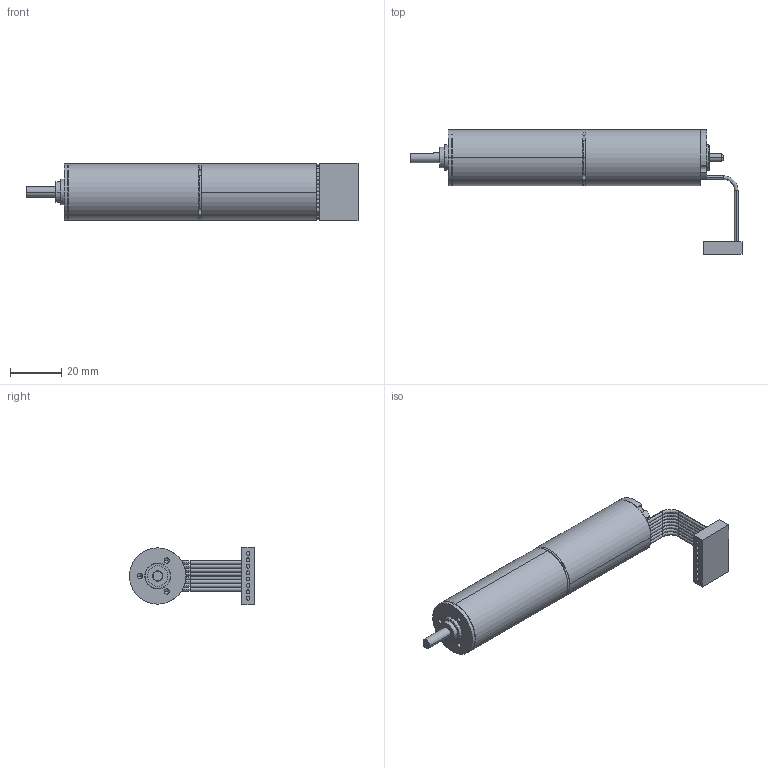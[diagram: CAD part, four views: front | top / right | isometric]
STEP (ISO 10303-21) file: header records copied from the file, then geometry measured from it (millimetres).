
FILE_DESCRIPTION (( 'STEP AP214' ), '1' );
FILE_NAME ('ECMax22L_+_GP022C 5etages.STEP', '2015-08-04T08:51:43', ( '' ), ( '' ), 'SwSTEP 2.0', 'SolidWorks 2014', '' );
FILE_SCHEMA (( 'AUTOMOTIVE_DESIGN' ));
Length unit declared in the file: millimetre
Products named in the file (3): ECMax22L; ECMax22L_+_GP022C 5etages; GP022C_Etage 5
Assembly tree (2 placements, depth 2):
  ECMax22L_+_GP022C 5etages
    ECMax22L
    GP022C_Etage 5
Bounding box: 129.7 x 48.8 x 22.4 mm (x, y, z)
Volume: 37981.8 mm3; surface area: 12147.2 mm2
Topology: 2 solids, 2 shells, 205 faces, 513 edges, 322 vertices
Faces by surface type: cylinder 110, cone 46, plane 33, bspline 16
Entity records: 7391 total; most frequent: CARTESIAN_POINT 1517, DIRECTION 1162, ORIENTED_EDGE 986, AXIS2_PLACEMENT_3D 495, EDGE_CURVE 493, VERTEX_POINT 322, CIRCLE 301, EDGE_LOOP 249
